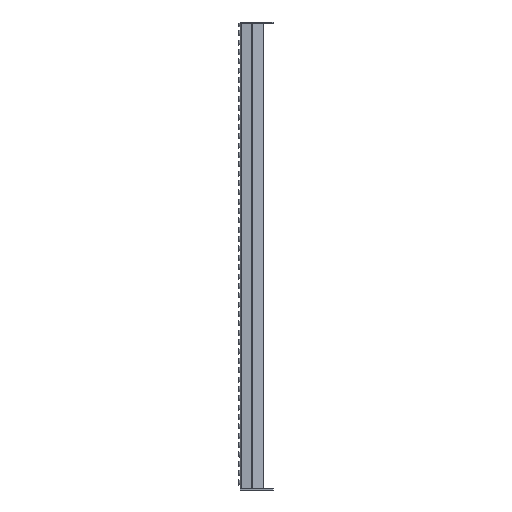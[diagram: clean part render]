
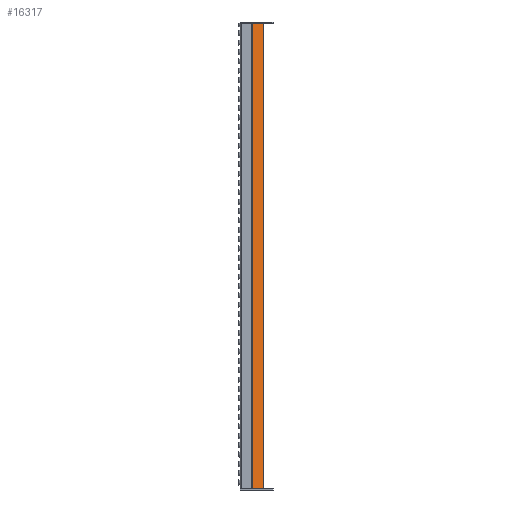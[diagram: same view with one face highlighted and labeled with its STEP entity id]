
A CAD part, left-side view. The second image highlights one B-rep face of the part: STEP entity #16317.
In plain terms, the highlighted planar face has unit normal (-0.94, -0.342, 0).
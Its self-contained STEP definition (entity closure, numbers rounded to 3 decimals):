
#2237=FACE_OUTER_BOUND('',#3489,.T.);
#3489=EDGE_LOOP('',(#13362,#13363,#13364,#13365));
#4609=LINE('',#29484,#6154);
#4628=LINE('',#29531,#6173);
#4630=LINE('',#29537,#6175);
#4634=LINE('',#29544,#6179);
#6154=VECTOR('',#21300,10.);
#6173=VECTOR('',#21343,10.);
#6175=VECTOR('',#21349,10.);
#6179=VECTOR('',#21357,10.);
#7833=VERTEX_POINT('',#29481);
#7834=VERTEX_POINT('',#29483);
#7850=VERTEX_POINT('',#29530);
#7852=VERTEX_POINT('',#29536);
#9760=EDGE_CURVE('',#7834,#7833,#4609,.T.);
#9784=EDGE_CURVE('',#7833,#7850,#4628,.T.);
#9787=EDGE_CURVE('',#7852,#7834,#4630,.T.);
#9791=EDGE_CURVE('',#7850,#7852,#4634,.T.);
#13362=ORIENTED_EDGE('',*,*,#9784,.T.);
#13363=ORIENTED_EDGE('',*,*,#9791,.T.);
#13364=ORIENTED_EDGE('',*,*,#9787,.T.);
#13365=ORIENTED_EDGE('',*,*,#9760,.T.);
#15360=PLANE('',#17867);
#16317=ADVANCED_FACE('',(#2237),#15360,.T.);
#17867=AXIS2_PLACEMENT_3D('',#29543,#21355,#21356);
#21300=DIRECTION('',(-0.342,0.94,0.));
#21343=DIRECTION('',(0.,0.,-1.));
#21349=DIRECTION('',(0.,0.,1.));
#21355=DIRECTION('center_axis',(-0.94,-0.342,0.));
#21356=DIRECTION('ref_axis',(0.,0.,1.));
#21357=DIRECTION('',(0.342,-0.94,0.));
#29481=CARTESIAN_POINT('',(0.196,-25.539,994.));
#29483=CARTESIAN_POINT('',(9.099,-50.,994.));
#29484=CARTESIAN_POINT('',(0.,-25.,994.));
#29530=CARTESIAN_POINT('',(0.196,-25.539,0.));
#29531=CARTESIAN_POINT('',(0.196,-25.539,0.));
#29536=CARTESIAN_POINT('',(9.099,-50.,0.));
#29537=CARTESIAN_POINT('',(9.099,-50.,0.));
#29543=CARTESIAN_POINT('Origin',(9.099,-50.,0.));
#29544=CARTESIAN_POINT('',(0.,-25.,0.));
